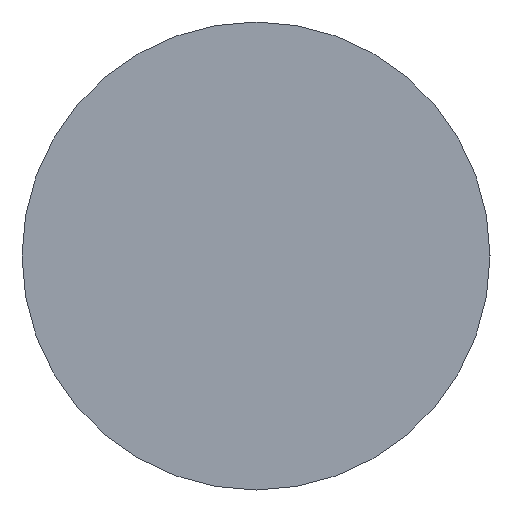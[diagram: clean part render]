
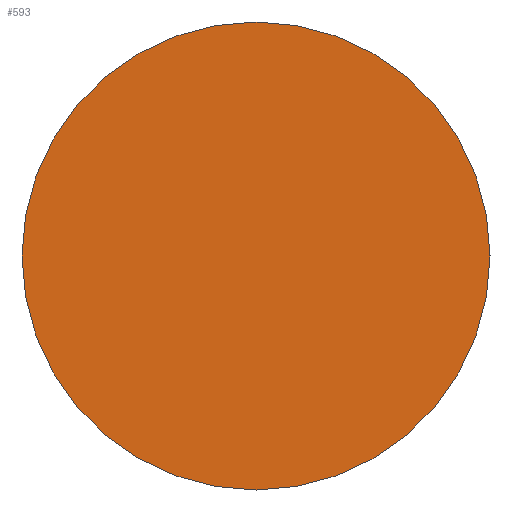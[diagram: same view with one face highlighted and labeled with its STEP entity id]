
A CAD part, left-side view. The second image highlights one B-rep face of the part: STEP entity #593.
In plain terms, the highlighted planar face has unit normal (-1, 0, 0).
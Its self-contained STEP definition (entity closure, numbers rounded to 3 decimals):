
#15 = CARTESIAN_POINT ( 'NONE',  ( 0., 0., 0.445 ) ) ;
#23 = FACE_OUTER_BOUND ( 'NONE', #197, .T. ) ;
#44 = CIRCLE ( 'NONE', #520, 0.445 ) ;
#52 = DIRECTION ( 'NONE',  ( 1., 0., 0. ) ) ;
#88 = CIRCLE ( 'NONE', #562, 0.445 ) ;
#98 = EDGE_CURVE ( 'NONE', #511, #416, #88, .T. ) ;
#117 = DIRECTION ( 'NONE',  ( 0., 0., 1. ) ) ;
#141 = DIRECTION ( 'NONE',  ( 1., 0., 0. ) ) ;
#175 = EDGE_CURVE ( 'NONE', #416, #511, #44, .T. ) ;
#197 = EDGE_LOOP ( 'NONE', ( #436, #427 ) ) ;
#244 = CARTESIAN_POINT ( 'NONE',  ( 0., 0., 0. ) ) ;
#330 = DIRECTION ( 'NONE',  ( 0., 0., -1. ) ) ;
#341 = CARTESIAN_POINT ( 'NONE',  ( 0., 0.445, 0. ) ) ;
#374 = CARTESIAN_POINT ( 'NONE',  ( 0., 0., 0. ) ) ;
#416 = VERTEX_POINT ( 'NONE', #422 ) ;
#422 = CARTESIAN_POINT ( 'NONE',  ( 0., 0., -0.445 ) ) ;
#427 = ORIENTED_EDGE ( 'NONE', *, *, #98, .F. ) ;
#436 = ORIENTED_EDGE ( 'NONE', *, *, #175, .F. ) ;
#466 = DIRECTION ( 'NONE',  ( 0., 0., -1. ) ) ;
#511 = VERTEX_POINT ( 'NONE', #15 ) ;
#512 = DIRECTION ( 'NONE',  ( -1., 0., 0. ) ) ;
#516 = PLANE ( 'NONE',  #591 ) ;
#520 = AXIS2_PLACEMENT_3D ( 'NONE', #374, #141, #466 ) ;
#562 = AXIS2_PLACEMENT_3D ( 'NONE', #244, #52, #330 ) ;
#591 = AXIS2_PLACEMENT_3D ( 'NONE', #341, #512, #117 ) ;
#593 = ADVANCED_FACE ( 'NONE', ( #23 ), #516, .T. ) ;
